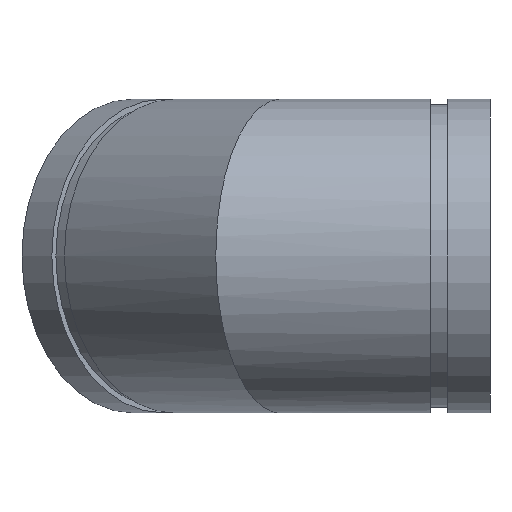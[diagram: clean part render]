
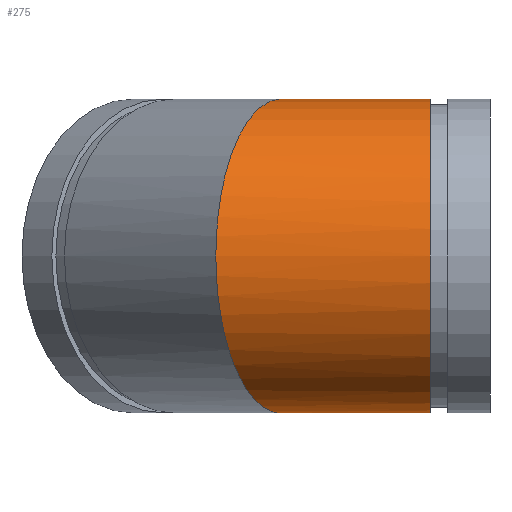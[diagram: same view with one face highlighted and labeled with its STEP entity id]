
A CAD part, left-side view. The second image highlights one B-rep face of the part: STEP entity #275.
In plain terms, the highlighted cylindrical face has radius 57.15 mm (diameter 114.3 mm), a full revolution.
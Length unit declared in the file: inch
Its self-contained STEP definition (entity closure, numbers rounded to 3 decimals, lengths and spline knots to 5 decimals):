
#48=ELLIPSE('',#329,2.43538,2.25);
#49=ELLIPSE('',#330,2.43538,2.25);
#50=ELLIPSE('',#331,2.43538,2.25);
#73=FACE_OUTER_BOUND('',#91,.T.);
#91=EDGE_LOOP('',(#225,#226,#227,#228,#229,#230));
#103=LINE('',#513,#111);
#111=VECTOR('',#416,2.25);
#117=CIRCLE('',#305,2.25);
#133=VERTEX_POINT('',#468);
#148=VERTEX_POINT('',#512);
#149=VERTEX_POINT('',#514);
#150=VERTEX_POINT('',#516);
#156=EDGE_CURVE('',#133,#133,#117,.T.);
#176=EDGE_CURVE('',#133,#148,#103,.T.);
#177=EDGE_CURVE('',#148,#149,#48,.T.);
#178=EDGE_CURVE('',#150,#149,#49,.T.);
#179=EDGE_CURVE('',#150,#148,#50,.T.);
#225=ORIENTED_EDGE('',*,*,#156,.T.);
#226=ORIENTED_EDGE('',*,*,#176,.T.);
#227=ORIENTED_EDGE('',*,*,#177,.T.);
#228=ORIENTED_EDGE('',*,*,#178,.F.);
#229=ORIENTED_EDGE('',*,*,#179,.T.);
#230=ORIENTED_EDGE('',*,*,#176,.F.);
#247=CYLINDRICAL_SURFACE('',#328,2.25);
#275=ADVANCED_FACE('',(#73),#247,.T.);
#305=AXIS2_PLACEMENT_3D('',#469,#363,#364);
#328=AXIS2_PLACEMENT_3D('',#511,#414,#415);
#329=AXIS2_PLACEMENT_3D('',#515,#417,#418);
#330=AXIS2_PLACEMENT_3D('',#517,#419,#420);
#331=AXIS2_PLACEMENT_3D('',#518,#421,#422);
#363=DIRECTION('center_axis',(0.,1.,0.));
#364=DIRECTION('ref_axis',(1.,0.,0.));
#414=DIRECTION('center_axis',(0.,-1.,0.));
#415=DIRECTION('ref_axis',(1.,0.,0.));
#416=DIRECTION('',(0.,1.,0.));
#417=DIRECTION('center_axis',(-0.383,-0.924,0.));
#418=DIRECTION('ref_axis',(0.924,-0.383,0.));
#419=DIRECTION('center_axis',(0.383,0.924,0.));
#420=DIRECTION('ref_axis',(0.924,-0.383,0.));
#421=DIRECTION('center_axis',(-0.383,-0.924,0.));
#422=DIRECTION('ref_axis',(0.924,-0.383,0.));
#468=CARTESIAN_POINT('',(-2.25,-2.14,0.));
#469=CARTESIAN_POINT('Origin',(0.,-2.14,0.));
#511=CARTESIAN_POINT('Origin',(0.,0.,0.));
#512=CARTESIAN_POINT('',(-2.25,0.93198,0.));
#513=CARTESIAN_POINT('',(-2.25,0.,0.));
#514=CARTESIAN_POINT('',(0.,0.,-2.25));
#515=CARTESIAN_POINT('Origin',(0.,0.,0.));
#516=CARTESIAN_POINT('',(0.,0.,2.25));
#517=CARTESIAN_POINT('Origin',(0.,0.,0.));
#518=CARTESIAN_POINT('Origin',(0.,0.,0.));
